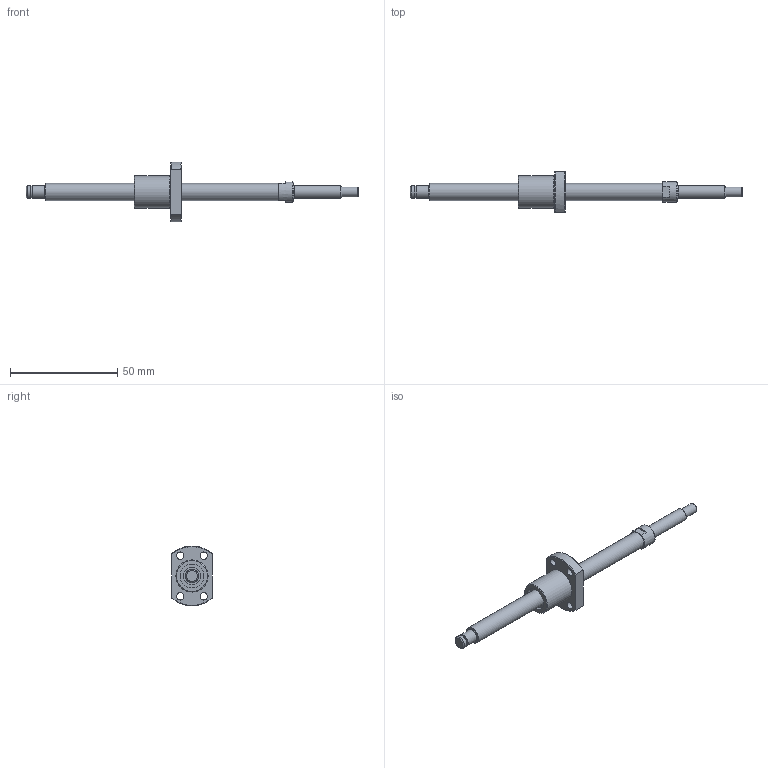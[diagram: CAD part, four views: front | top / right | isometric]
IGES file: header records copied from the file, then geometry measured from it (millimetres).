
Start section: Data from Parasolid IGES Translator 26.0.171, Copyright(c) 2006 Siemens PLM Software. All Rights Reserved.
Global section: file name: BNK0802-3RRG0+155LC5Y(63.5).igs; native system: By Siemens PLM Incorporated; preprocessor: XPlus GENERIC/IGES 26.0.171; author: Noname; organization: Noname; date: 20240709.084714; units: millimetre
Bounding box: 155 x 19 x 28 mm (x, y, z)
Surface area: 6615.5 mm2 (no closed solid volume)
Topology: 0 solids, 0 shells, 53 faces, 230 edges, 200 vertices
Faces by surface type: revolution 32, extrusion 21
